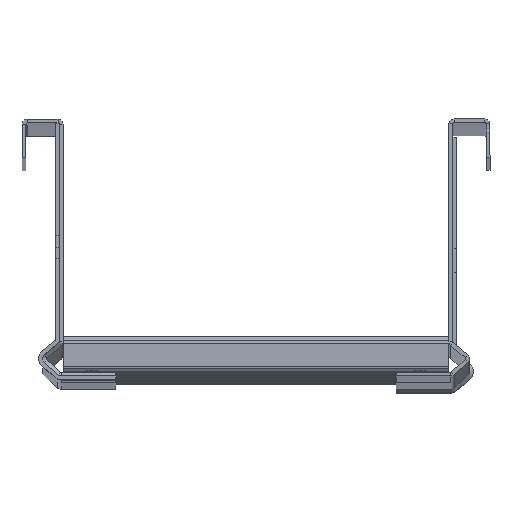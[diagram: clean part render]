
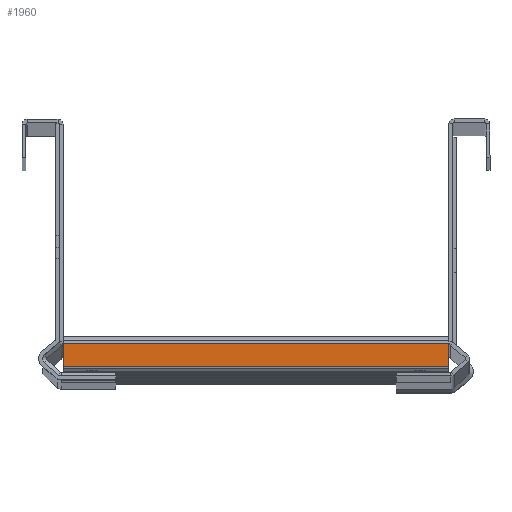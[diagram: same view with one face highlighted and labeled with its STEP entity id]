
A CAD part, top view. The second image highlights one B-rep face of the part: STEP entity #1960.
In plain terms, the highlighted planar face has unit normal (0, 0, 1) as drawn and (-1, 0, 0) by its records, which use the part's own axes.
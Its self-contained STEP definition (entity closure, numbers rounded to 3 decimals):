
#26 = EDGE_CURVE ( 'NONE', #2719, #493, #5630, .T. ) ;
#493 = VERTEX_POINT ( 'NONE', #4796 ) ;
#988 = DIRECTION ( 'NONE',  ( 0., -1., 0. ) ) ;
#1169 = DIRECTION ( 'NONE',  ( 0., 0., -1. ) ) ;
#1361 = VECTOR ( 'NONE', #1421, 1000. ) ;
#1421 = DIRECTION ( 'NONE',  ( 0., 0., -1. ) ) ;
#1447 = AXIS2_PLACEMENT_3D ( 'NONE', #4751, #2716, #4660 ) ;
#1544 = EDGE_LOOP ( 'NONE', ( #3151, #5097, #4992, #5487 ) ) ;
#1912 = CARTESIAN_POINT ( 'NONE',  ( -17.5, 11.5, 75. ) ) ;
#1960 = ADVANCED_FACE ( 'NONE', ( #2750 ), #4251, .F. ) ;
#2244 = CARTESIAN_POINT ( 'NONE',  ( -17.5, 11.5, 75. ) ) ;
#2531 = CARTESIAN_POINT ( 'NONE',  ( -17.5, 14., 75. ) ) ;
#2716 = DIRECTION ( 'NONE',  ( 1., 0., 0. ) ) ;
#2719 = VERTEX_POINT ( 'NONE', #4056 ) ;
#2750 = FACE_OUTER_BOUND ( 'NONE', #1544, .T. ) ;
#2889 = EDGE_CURVE ( 'NONE', #5061, #493, #4213, .T. ) ;
#2903 = LINE ( 'NONE', #1912, #1361 ) ;
#3004 = VERTEX_POINT ( 'NONE', #2244 ) ;
#3024 = LINE ( 'NONE', #2531, #4503 ) ;
#3151 = ORIENTED_EDGE ( 'NONE', *, *, #26, .T. ) ;
#3609 = VECTOR ( 'NONE', #1169, 1000. ) ;
#4056 = CARTESIAN_POINT ( 'NONE',  ( -17.5, 11.5, -75. ) ) ;
#4148 = DIRECTION ( 'NONE',  ( 0., -1., 0. ) ) ;
#4171 = CARTESIAN_POINT ( 'NONE',  ( -17.5, 14., -75. ) ) ;
#4213 = LINE ( 'NONE', #6159, #3609 ) ;
#4251 = PLANE ( 'NONE',  #1447 ) ;
#4335 = CARTESIAN_POINT ( 'NONE',  ( -17.5, 2.5, 75. ) ) ;
#4503 = VECTOR ( 'NONE', #988, 1000. ) ;
#4534 = EDGE_CURVE ( 'NONE', #3004, #2719, #2903, .T. ) ;
#4660 = DIRECTION ( 'NONE',  ( 0., 0., -1. ) ) ;
#4751 = CARTESIAN_POINT ( 'NONE',  ( -17.5, 14., 75. ) ) ;
#4796 = CARTESIAN_POINT ( 'NONE',  ( -17.5, 2.5, -75. ) ) ;
#4992 = ORIENTED_EDGE ( 'NONE', *, *, #5833, .F. ) ;
#5061 = VERTEX_POINT ( 'NONE', #4335 ) ;
#5097 = ORIENTED_EDGE ( 'NONE', *, *, #2889, .F. ) ;
#5487 = ORIENTED_EDGE ( 'NONE', *, *, #4534, .T. ) ;
#5630 = LINE ( 'NONE', #4171, #6145 ) ;
#5833 = EDGE_CURVE ( 'NONE', #3004, #5061, #3024, .T. ) ;
#6145 = VECTOR ( 'NONE', #4148, 1000. ) ;
#6159 = CARTESIAN_POINT ( 'NONE',  ( -17.5, 2.5, 75. ) ) ;
